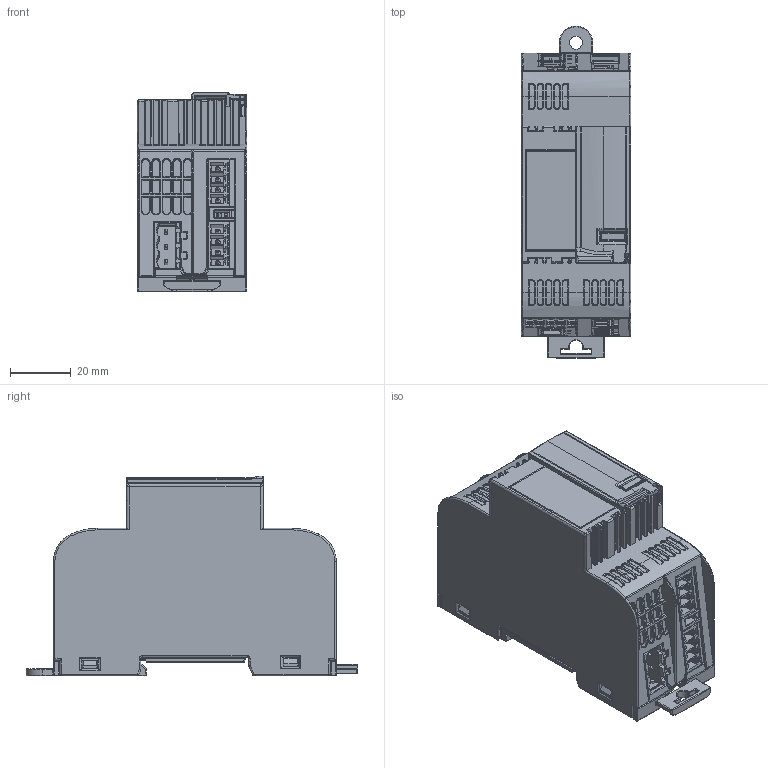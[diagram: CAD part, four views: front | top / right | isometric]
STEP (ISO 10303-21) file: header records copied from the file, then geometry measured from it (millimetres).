
FILE_DESCRIPTION (( 'STEP AP203' ), '1' );
FILE_NAME ('B84605030.STEP', '2025-12-01T14:21:19', ( 'Administrator' ), ( '' ), 'SwSTEP 2.0', 'SolidWorks 2024', '' );
FILE_SCHEMA (( 'CONFIG_CONTROL_DESIGN' ));
Length unit declared in the file: millimetre
Products named in the file (1): B84605030
Bounding box: 36 x 109.15 x 65.68 mm (x, y, z)
Volume: 163718 mm3; surface area: 32418 mm2
Topology: 2 solids, 28 shells, 3730 faces, 9260 edges, 5510 vertices
Faces by surface type: plane 1606, cylinder 1341, torus 389, sphere 185, bspline 177, cone 32
Entity records: 116832 total; most frequent: CARTESIAN_POINT 30809, ORIENTED_EDGE 18170, DIRECTION 17879, EDGE_CURVE 9085, AXIS2_PLACEMENT_3D 6261, VERTEX_POINT 5504, VECTOR 5357, LINE 5357
